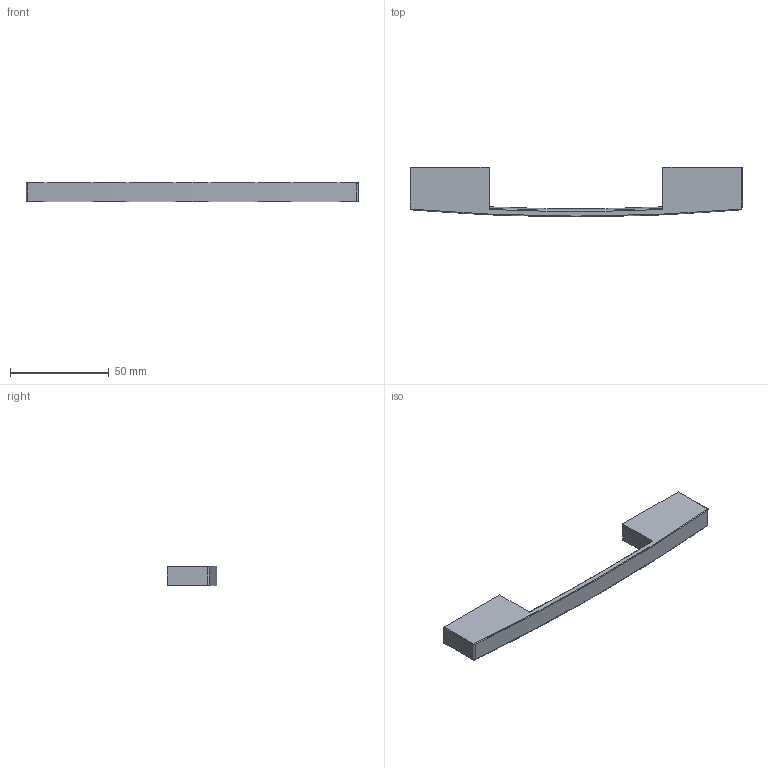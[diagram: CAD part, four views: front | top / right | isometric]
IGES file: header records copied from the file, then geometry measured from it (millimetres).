
Start section: Data from Parasolid IGES Translator 15.0.47, Copyright(c) 2006 Siemens P LM Software. All Rights Reserved.
Global section: file name: 9113501.igs; native system:  By UGS Corp.; preprocessor: XPlus GENERIC/IGES 3.0; author: Noname; organization: Noname; date: 20140123.103532; units: millimetre
Bounding box: 168 x 25 x 10 mm (x, y, z)
Surface area: 12117.3 mm2 (no closed solid volume)
Topology: 0 solids, 0 shells, 47 faces, 244 edges, 240 vertices
Faces by surface type: extrusion 24, revolution 23
